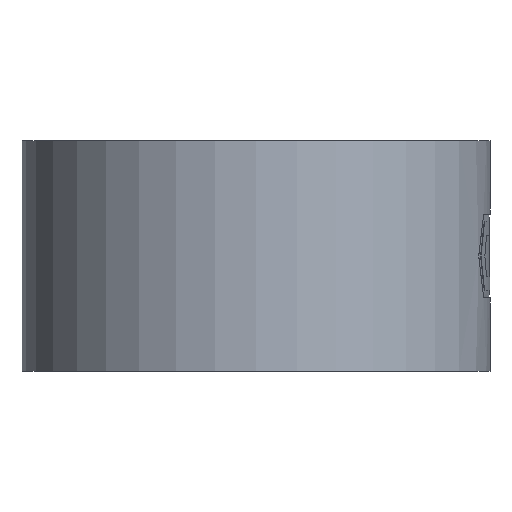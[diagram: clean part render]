
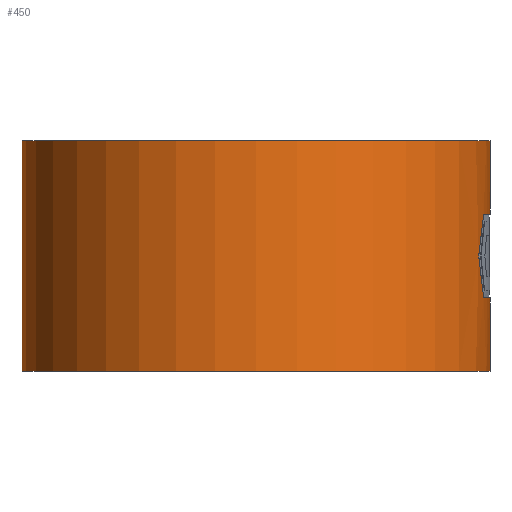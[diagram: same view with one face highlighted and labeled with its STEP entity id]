
A CAD part, front view. The second image highlights one B-rep face of the part: STEP entity #450.
In plain terms, the highlighted cylindrical face has radius 11.15 mm (diameter 22.3 mm), a partial arc.
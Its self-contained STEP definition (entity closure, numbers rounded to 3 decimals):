
#211 = CARTESIAN_POINT ( 'NONE',  ( 10.616, -3.41, 5.5 ) ) ;
#212 = CARTESIAN_POINT ( 'NONE',  ( 10.704, -3.137, 6.159 ) ) ;
#213 = CARTESIAN_POINT ( 'NONE',  ( 10.781, -2.861, 6.826 ) ) ;
#214 = CARTESIAN_POINT ( 'NONE',  ( 10.847, -2.582, 7.5 ) ) ;
#216 = B_SPLINE_CURVE_WITH_KNOTS ( 'NONE', 3,
 ( #214, #213, #212, #211 ),
 .UNSPECIFIED., .F., .F.,
 ( 4, 4 ),
 ( 0., 1. ),
 .UNSPECIFIED. ) ;
#232 = CIRCLE ( 'NONE', #299, 11.15 ) ;
#233 = CARTESIAN_POINT ( 'NONE',  ( 10.847, -2.582, 3.5 ) ) ;
#296 = DIRECTION ( 'NONE',  ( -1., 0., 0. ) ) ;
#297 = DIRECTION ( 'NONE',  ( 0., 0., -1. ) ) ;
#298 = CARTESIAN_POINT ( 'NONE',  ( 0., 0., 7.5 ) ) ;
#299 = AXIS2_PLACEMENT_3D ( 'NONE', #298, #297, #296 ) ;
#328 = VERTEX_POINT ( 'NONE', #891 ) ;
#331 = ORIENTED_EDGE ( 'NONE', *, *, #338, .F. ) ;
#334 = ORIENTED_EDGE ( 'NONE', *, *, #634, .F. ) ;
#338 = EDGE_CURVE ( 'NONE', #426, #420, #848, .T. ) ;
#363 = EDGE_CURVE ( 'NONE', #479, #454, #950, .T. ) ;
#404 = EDGE_CURVE ( 'NONE', #478, #480, #1024, .T. ) ;
#420 = VERTEX_POINT ( 'NONE', #1033 ) ;
#426 = VERTEX_POINT ( 'NONE', #1012 ) ;
#433 = EDGE_LOOP ( 'NONE', ( #468, #469, #471, #472, #331, #617, #645, #334, #614 ) ) ;
#450 = ADVANCED_FACE ( 'NONE', ( #1082 ), #1077, .T. ) ;
#454 = VERTEX_POINT ( 'NONE', #1097 ) ;
#468 = ORIENTED_EDGE ( 'NONE', *, *, #404, .F. ) ;
#469 = ORIENTED_EDGE ( 'NONE', *, *, #470, .F. ) ;
#470 = EDGE_CURVE ( 'NONE', #479, #478, #1117, .T. ) ;
#471 = ORIENTED_EDGE ( 'NONE', *, *, #363, .T. ) ;
#472 = ORIENTED_EDGE ( 'NONE', *, *, #473, .T. ) ;
#473 = EDGE_CURVE ( 'NONE', #454, #420, #1112, .T. ) ;
#478 = VERTEX_POINT ( 'NONE', #1103 ) ;
#479 = VERTEX_POINT ( 'NONE', #1102 ) ;
#480 = VERTEX_POINT ( 'NONE', #1101 ) ;
#494 = EDGE_CURVE ( 'NONE', #616, #328, #1248, .T. ) ;
#578 = VERTEX_POINT ( 'NONE', #1316 ) ;
#599 = EDGE_CURVE ( 'NONE', #616, #426, #1096, .T. ) ;
#614 = ORIENTED_EDGE ( 'NONE', *, *, #615, .F. ) ;
#615 = EDGE_CURVE ( 'NONE', #480, #578, #232, .T. ) ;
#616 = VERTEX_POINT ( 'NONE', #233 ) ;
#617 = ORIENTED_EDGE ( 'NONE', *, *, #599, .F. ) ;
#634 = EDGE_CURVE ( 'NONE', #578, #328, #216, .T. ) ;
#645 = ORIENTED_EDGE ( 'NONE', *, *, #494, .T. ) ;
#845 = DIRECTION ( 'NONE',  ( 0., 0., -1. ) ) ;
#846 = VECTOR ( 'NONE', #845, 1000. ) ;
#847 = CARTESIAN_POINT ( 'NONE',  ( 11.15, 0., 11. ) ) ;
#848 = LINE ( 'NONE', #847, #846 ) ;
#891 = CARTESIAN_POINT ( 'NONE',  ( 10.616, -3.41, 5.5 ) ) ;
#947 = DIRECTION ( 'NONE',  ( 0., 0., -1. ) ) ;
#948 = VECTOR ( 'NONE', #947, 1000. ) ;
#949 = CARTESIAN_POINT ( 'NONE',  ( -11.15, 0., 11. ) ) ;
#950 = LINE ( 'NONE', #949, #948 ) ;
#991 = VECTOR ( 'NONE', #1000, 1000. ) ;
#1000 = DIRECTION ( 'NONE',  ( 0., 0., -1. ) ) ;
#1001 = CARTESIAN_POINT ( 'NONE',  ( 11.15, 0., 11. ) ) ;
#1012 = CARTESIAN_POINT ( 'NONE',  ( 11.15, 0., 3.5 ) ) ;
#1024 = LINE ( 'NONE', #1001, #991 ) ;
#1033 = CARTESIAN_POINT ( 'NONE',  ( 11.15, 0., 0. ) ) ;
#1073 = DIRECTION ( 'NONE',  ( -1., 0., 0. ) ) ;
#1074 = DIRECTION ( 'NONE',  ( 0., 0., -1. ) ) ;
#1075 = CARTESIAN_POINT ( 'NONE',  ( 0., 0., 11. ) ) ;
#1076 = AXIS2_PLACEMENT_3D ( 'NONE', #1075, #1074, #1073 ) ;
#1077 = CYLINDRICAL_SURFACE ( 'NONE', #1076, 11.15 ) ;
#1082 = FACE_OUTER_BOUND ( 'NONE', #433, .T. ) ;
#1089 = DIRECTION ( 'NONE',  ( 0., 0., 1. ) ) ;
#1090 = CARTESIAN_POINT ( 'NONE',  ( 0., 0., 3.5 ) ) ;
#1091 = AXIS2_PLACEMENT_3D ( 'NONE', #1090, #1089, #1154 ) ;
#1096 = CIRCLE ( 'NONE', #1091, 11.15 ) ;
#1097 = CARTESIAN_POINT ( 'NONE',  ( -11.15, 0., 0. ) ) ;
#1101 = CARTESIAN_POINT ( 'NONE',  ( 11.15, 0., 7.5 ) ) ;
#1102 = CARTESIAN_POINT ( 'NONE',  ( -11.15, 0., 11. ) ) ;
#1103 = CARTESIAN_POINT ( 'NONE',  ( 11.15, 0., 11. ) ) ;
#1109 = DIRECTION ( 'NONE',  ( 1., 0., 0. ) ) ;
#1110 = DIRECTION ( 'NONE',  ( 0., 0., 1. ) ) ;
#1111 = AXIS2_PLACEMENT_3D ( 'NONE', #1118, #1110, #1109 ) ;
#1112 = CIRCLE ( 'NONE', #1111, 11.15 ) ;
#1113 = DIRECTION ( 'NONE',  ( 1., 0., 0. ) ) ;
#1114 = DIRECTION ( 'NONE',  ( 0., 0., 1. ) ) ;
#1115 = CARTESIAN_POINT ( 'NONE',  ( 0., 0., 11. ) ) ;
#1116 = AXIS2_PLACEMENT_3D ( 'NONE', #1115, #1114, #1113 ) ;
#1117 = CIRCLE ( 'NONE', #1116, 11.15 ) ;
#1118 = CARTESIAN_POINT ( 'NONE',  ( 0., 0., 0. ) ) ;
#1154 = DIRECTION ( 'NONE',  ( 1., 0., 0. ) ) ;
#1243 = CARTESIAN_POINT ( 'NONE',  ( 10.616, -3.41, 5.5 ) ) ;
#1244 = CARTESIAN_POINT ( 'NONE',  ( 10.699, -3.15, 4.871 ) ) ;
#1245 = CARTESIAN_POINT ( 'NONE',  ( 10.778, -2.873, 4.205 ) ) ;
#1246 = CARTESIAN_POINT ( 'NONE',  ( 10.847, -2.582, 3.5 ) ) ;
#1248 = B_SPLINE_CURVE_WITH_KNOTS ( 'NONE', 3,
 ( #1246, #1245, #1244, #1243 ),
 .UNSPECIFIED., .F., .F.,
 ( 4, 4 ),
 ( 0., 1. ),
 .UNSPECIFIED. ) ;
#1316 = CARTESIAN_POINT ( 'NONE',  ( 10.847, -2.582, 7.5 ) ) ;
